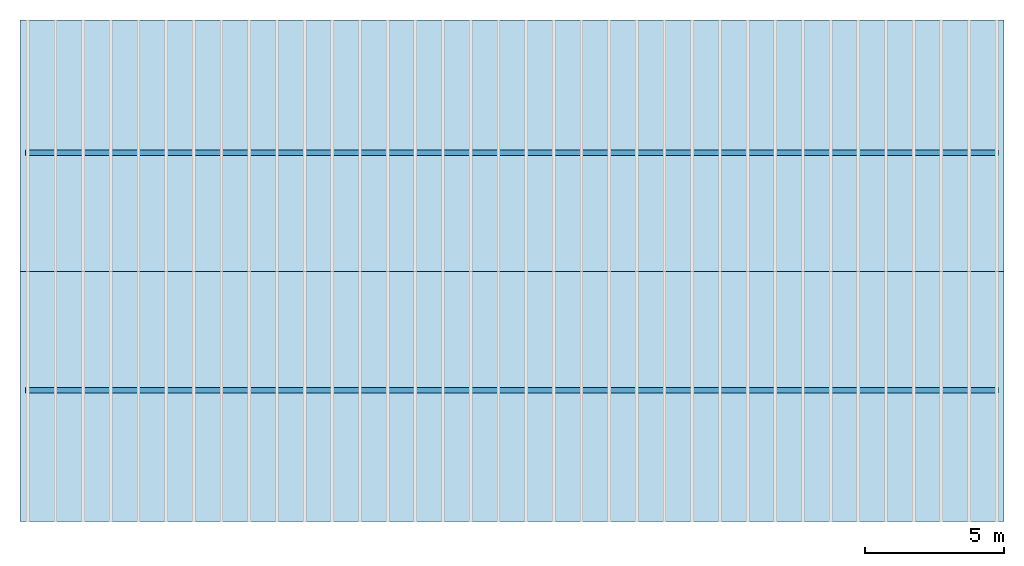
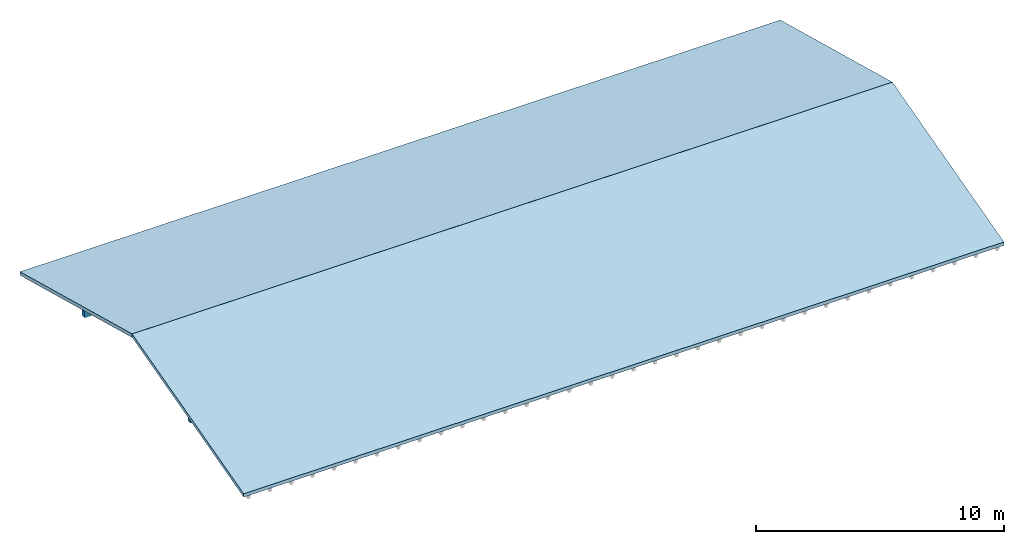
# One storey, part 3 of 3: 2 beams, 2 roofs.
"""IFC4 building model written with IfcOpenShell, lengths in metres."""

from ifc_helpers import new_model, entity, si_unit, converted_unit, frame, origin_with_axes, origin_2d_with_axis, place, context, subcontext, project, spatial, line, indexed_curve, outline, extrude, polygons, material, layer, layer_set, layer_usage, type_object, element, save


model = new_model("IFC4")

# Units and contexts
model_context = context("Model", 3, precision=1e-05, world=origin_with_axes())
plan_context = context("Plan", 2, precision=1e-05, world=origin_2d_with_axis())
body_context = subcontext(model_context, "Body", "Model", "MODEL_VIEW")
ifc_project = project(units=[converted_unit("PLANEANGLEUNIT", "degree", entity("IfcReal", 0.0174532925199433), si_unit("PLANEANGLEUNIT", "RADIAN"), dimensions=[0, 0, 0, 0, 0, 0, 0]), si_unit("AREAUNIT", "SQUARE_METRE"), si_unit("VOLUMEUNIT", "CUBIC_METRE"), si_unit("LENGTHUNIT", "METRE")], contexts=[model_context, plan_context])

# Site, building, storey
site_placement = place(None, origin_with_axes())
site = spatial("IfcSite", under=ifc_project, at=site_placement, Name="My Site")
building_placement = place(site_placement, origin_with_axes())
building = spatial("IfcBuilding", under=site, at=building_placement, Name="Werkhalle")
storey_placement = place(building_placement, frame((0.0, 0.0, 8.89999961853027), z_axis=(0.0, 0.0, 1.0), x_axis=(1.0, 0.0, 0.0)))
storey = spatial("IfcBuildingStorey", under=building, at=storey_placement, Name="05 Dach")

# Beams
ifc_material_1 = material(Name="Fichte", Category="Holz")
for number, where, z_axis, x_axis, name in (
    (1, (17.5000038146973, 3.7280650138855, -1.52458429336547), (0.0, 0.0, 1.0), (1.0, 0.0, 0.0), "Pfette links"),
    (2, (17.5000038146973, 12.2718744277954, -1.52458429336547), (0.0, 0.0, 1.0), (1.0, 0.0, 0.0), "Pfette rechts"),
):
    element("IfcBeam", number, at=place(storey_placement, frame(where, z_axis=z_axis, x_axis=x_axis)), inside=storey, material=ifc_material_1, Name=name, PredefinedType="BEAM", context=body_context, shape_type="Tessellation", body=[
        polygons([(-17.5, -0.100000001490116, -0.150000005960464), (-17.5, -0.100000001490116, 0.150000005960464), (-17.5, 0.100000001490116, -0.150000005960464), (-17.5, 0.100000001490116, 0.150000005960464), (17.5, -0.100000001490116, -0.150000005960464), (17.5, -0.100000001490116, 0.150000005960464), (17.5, 0.100000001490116, -0.150000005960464), (17.5, 0.100000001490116, 0.150000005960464)], [[[1, 2, 4, 3]], [[3, 4, 8, 7]], [[7, 8, 6, 5]], [[5, 6, 2, 1]], [[3, 7, 5, 1]], [[8, 4, 2, 6]]]),
    ])

# Roofs
ifc_material_2 = material(Name="Dachziegel", Category="Dacheindeckung")
ifc_layer_1 = layer(ifc_material_2, 0.0500000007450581)
ifc_material_3 = material(Name="Folie", Category="Dacheindeckung")
ifc_layer_2 = layer(ifc_material_3, 0.00999999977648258)
ifc_material_4 = material(Name="Lattung", Category="Dacheindeckung")
ifc_layer_3 = layer(ifc_material_4, 0.100000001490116)
ifc_layer_set = layer_set([ifc_layer_1, ifc_layer_2, ifc_layer_3], Name="Dacheindeckung")
ifc_layer_usage_1 = layer_usage(ifc_layer_set, "AXIS3", "POSITIVE", 0.0)
roof_type = type_object("IfcRoofType", Name="Dacheindeckung", PredefinedType="NOTDEFINED", material=ifc_layer_set)
roof_1_placement = place(storey_placement, frame((-0.199999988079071, 8.0, -0.0284147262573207), z_axis=(0.0, 0.258819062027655, 0.965925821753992), x_axis=(1.0, 0.0, 0.0)))
element("IfcRoof", 3, at=roof_1_placement, inside=storey, type_object=roof_type, material=ifc_layer_usage_1, Name="Roof", context=body_context, shape_type="SweptSolid", body=[
    extrude(outline(indexed_curve([(35.4000015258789, 9.35706615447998), (35.4000015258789, 0.0), (0.0, 0.0), (0.0, 9.35706615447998)], segments=[line(3, 2), line(2, 1), line(1, 4), line(4, 3)], self_intersect=False)), None, (0.0, -0.258819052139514, 0.965925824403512), 0.165644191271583),
])
ifc_layer_usage_2 = layer_usage(ifc_layer_set, "AXIS3", "POSITIVE", 0.0)
roof_2_placement = place(storey_placement, frame((-0.199999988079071, -1.00000011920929, -2.44086074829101), z_axis=(0.0, -0.258819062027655, 0.965925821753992), x_axis=(1.0, 0.0, 0.0)))
element("IfcRoof", 4, at=roof_2_placement, inside=storey, type_object=roof_type, material=ifc_layer_usage_2, Name="Roof", context=body_context, shape_type="SweptSolid", body=[
    extrude(outline(indexed_curve([(35.4000015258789, 0.0), (35.4000015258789, 9.31900310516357), (0.0, 9.31900310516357), (0.0, 0.0)], segments=[line(3, 2), line(2, 1), line(1, 4), line(4, 3)], self_intersect=False)), None, (0.0, 0.258819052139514, 0.965925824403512), 0.165644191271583),
])

save(model, "model.ifc")
